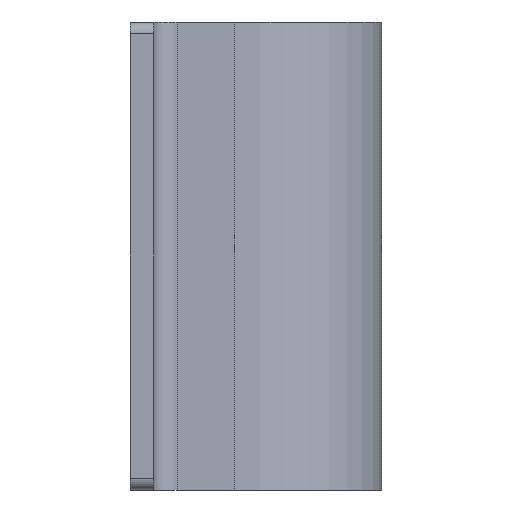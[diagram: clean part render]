
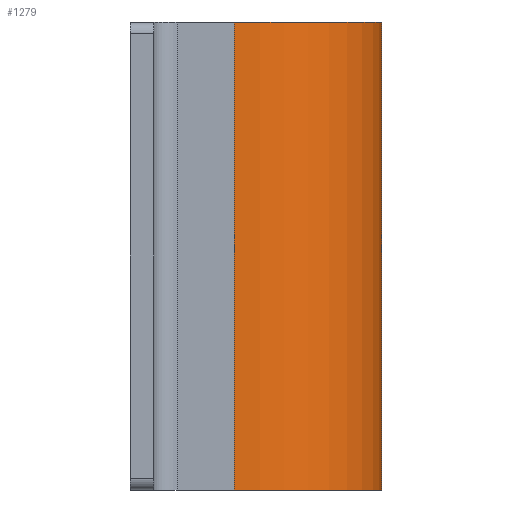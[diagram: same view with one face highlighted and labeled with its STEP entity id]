
A CAD part, left-side view. The second image highlights one B-rep face of the part: STEP entity #1279.
In plain terms, the highlighted cylindrical face has radius 25.25 mm (diameter 50.5 mm), a partial arc.
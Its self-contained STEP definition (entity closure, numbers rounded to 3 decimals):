
#502=CARTESIAN_POINT('',(-63.75,-21.2,80.0));
#503=VERTEX_POINT('',#502);
#510=CARTESIAN_POINT('',(-13.251,-21.416,80.0));
#511=VERTEX_POINT('',#510);
#512=CARTESIAN_POINT('',(-38.5,-21.2,80.0));
#513=DIRECTION('',(0.0,0.0,-1.0));
#514=DIRECTION('',(-1.0,0.0,0.0));
#515=AXIS2_PLACEMENT_3D('',#512,#513,#514);
#516=CIRCLE('',#515,25.25);
#517=EDGE_CURVE('',#511,#503,#516,.T.);
#1236=CARTESIAN_POINT('',(-13.251,-21.416,0.0));
#1237=VERTEX_POINT('',#1236);
#1238=CARTESIAN_POINT('',(-13.251,-21.416,0.0));
#1239=DIRECTION('',(0.0,0.0,1.0));
#1240=VECTOR('',#1239,80.0);
#1241=LINE('',#1238,#1240);
#1242=EDGE_CURVE('',#1237,#511,#1241,.T.);
#1255=CARTESIAN_POINT('',(-38.5,-21.2,0.0));
#1256=DIRECTION('',(0.0,0.0,1.0));
#1257=DIRECTION('',(-1.0,0.0,0.0));
#1258=AXIS2_PLACEMENT_3D('',#1255,#1256,#1257);
#1259=CYLINDRICAL_SURFACE('',#1258,25.25);
#1260=ORIENTED_EDGE('',*,*,#517,.T.);
#1261=CARTESIAN_POINT('',(-63.75,-21.2,0.0));
#1262=VERTEX_POINT('',#1261);
#1263=CARTESIAN_POINT('',(-63.75,-21.2,0.0));
#1264=DIRECTION('',(0.0,0.0,1.0));
#1265=VECTOR('',#1264,80.0);
#1266=LINE('',#1263,#1265);
#1267=EDGE_CURVE('',#1262,#503,#1266,.T.);
#1268=ORIENTED_EDGE('',*,*,#1267,.F.);
#1269=CARTESIAN_POINT('',(-38.5,-21.2,0.0));
#1270=DIRECTION('',(0.0,0.0,1.0));
#1271=DIRECTION('',(-1.0,0.0,0.0));
#1272=AXIS2_PLACEMENT_3D('',#1269,#1270,#1271);
#1273=CIRCLE('',#1272,25.25);
#1274=EDGE_CURVE('',#1262,#1237,#1273,.T.);
#1275=ORIENTED_EDGE('',*,*,#1274,.T.);
#1276=ORIENTED_EDGE('',*,*,#1242,.T.);
#1277=EDGE_LOOP('',(#1260,#1268,#1275,#1276));
#1278=FACE_OUTER_BOUND('',#1277,.T.);
#1279=ADVANCED_FACE('',(#1278),#1259,.T.);
